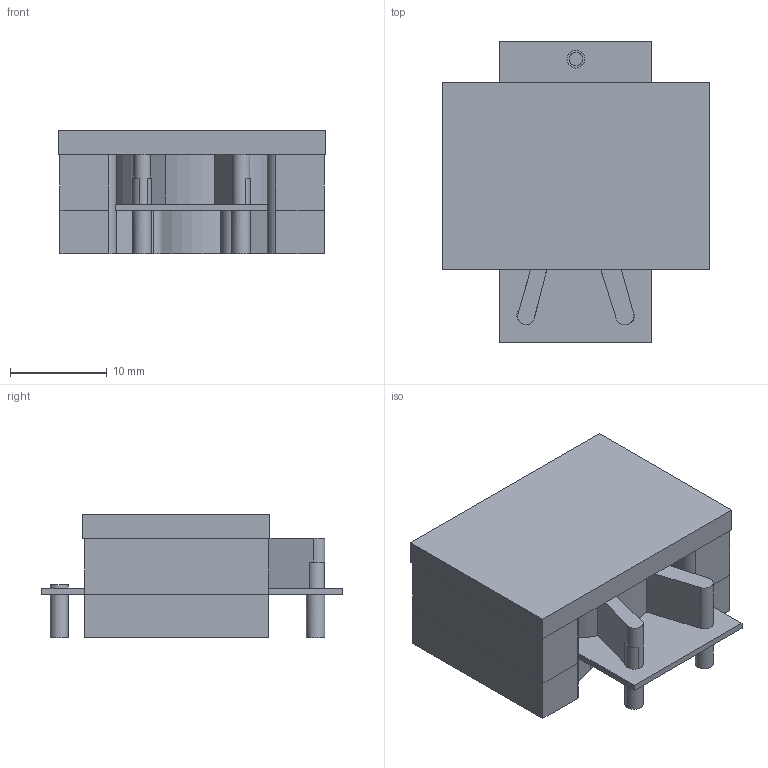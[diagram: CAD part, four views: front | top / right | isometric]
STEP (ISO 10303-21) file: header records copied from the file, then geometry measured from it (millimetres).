
FILE_DESCRIPTION(('FreeCAD Model'),'2;1');
FILE_NAME('Open CASCADE Shape Model','2024-08-22T11:55:11',('Author'),( ''),'Open CASCADE STEP processor 7.6','FreeCAD','Unknown');
FILE_SCHEMA(('AUTOMOTIVE_DESIGN { 1 0 10303 214 1 1 1 1 }'));
Length unit declared in the file: millimetre
Products named in the file (1): Pad006
Bounding box: 27.61 x 31.01 x 12.7 mm (x, y, z)
Volume: 6252.3 mm3; surface area: 3180.4 mm2
Topology: 1 solids, 1 shells, 98 faces, 265 edges, 172 vertices
Faces by surface type: plane 67, cylinder 31
Full cylindrical faces by diameter (mm): 1.273 x2, 1.356 x2, 1.858 x2, 1.89 x2
Entity records: 7010 total; most frequent: CARTESIAN_POINT 1424, DIRECTION 933, ORIENTED_EDGE 530, PCURVE 530, DEFINITIONAL_REPRESENTATION 530, LINE 508, VECTOR 508, EDGE_CURVE 265
